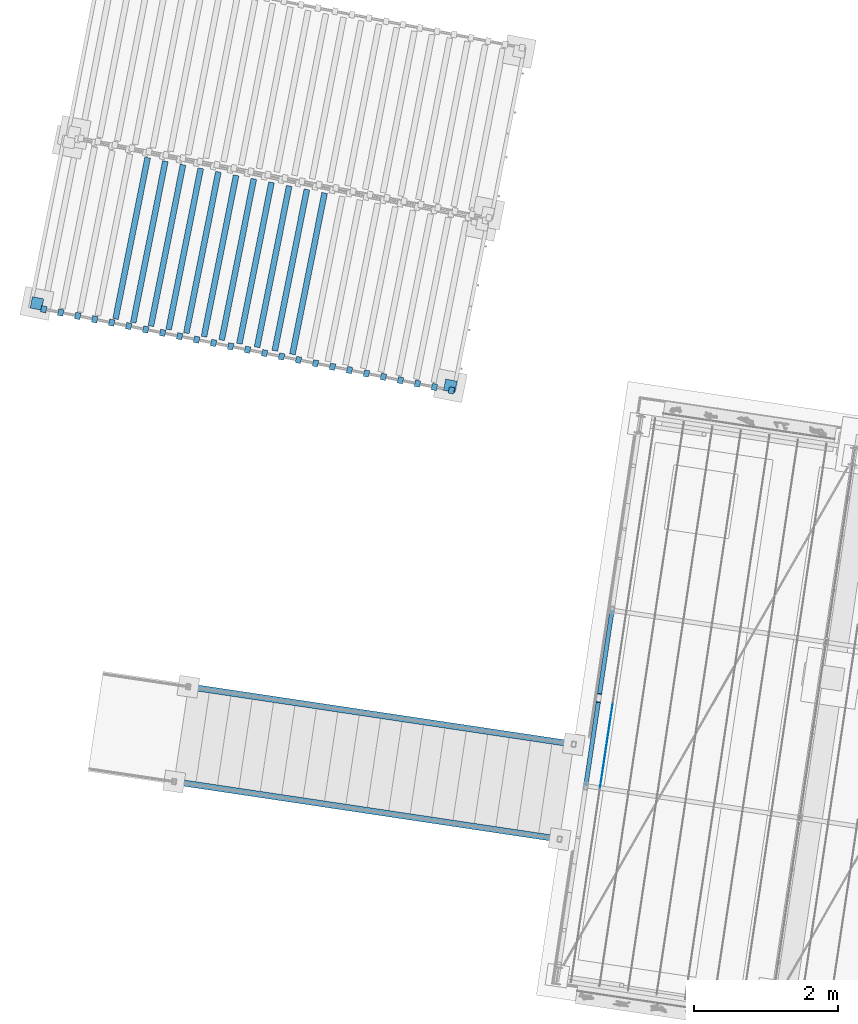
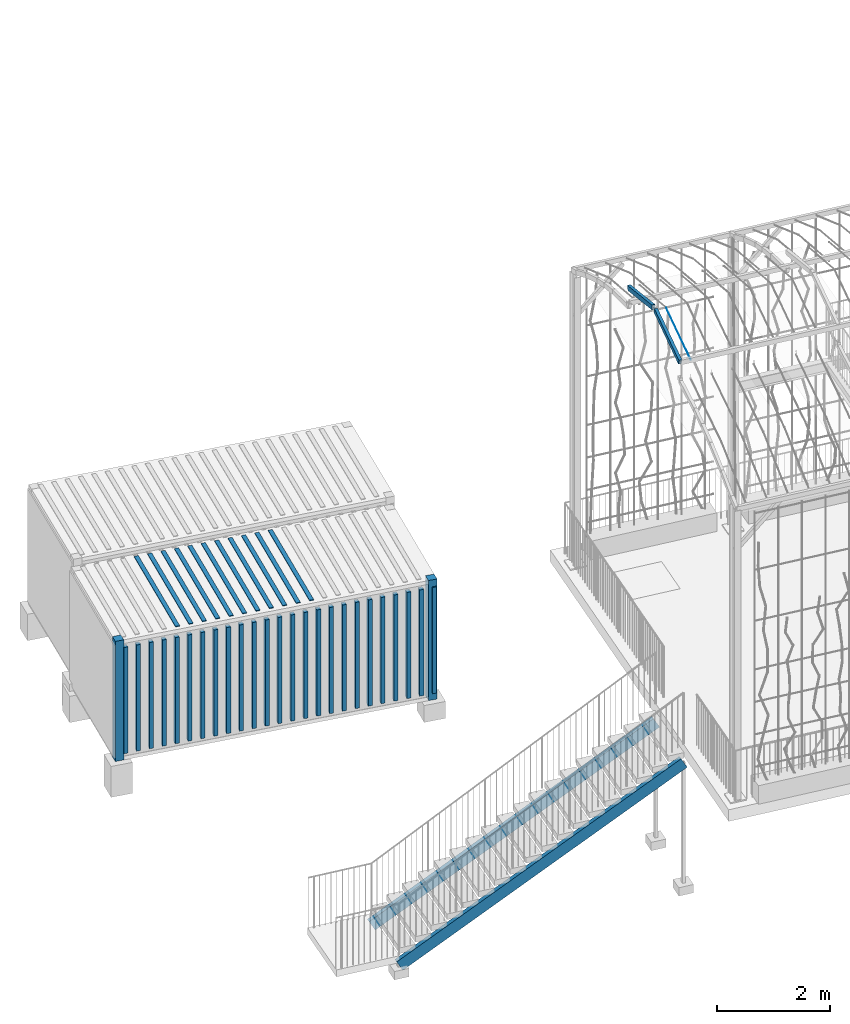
# One storey, part 27 of 143: 43 members, 3 elements without a shape of their own.
"""IFC4 building model written with IfcOpenShell, lengths in metres."""

from ifc_helpers import new_model, si_unit, direction, frame, origin_with_axes, place, context, subcontext, project, spatial, polyline, hollow_rectangle, circle, outline, extrude, material, material_profile, profile_set, profile_usage, type_object, element, aggregate, save


model = new_model("IFC4")

# Units and contexts
model_context = context("Model", 3, precision=1e-05, world=origin_with_axes(), true_north=direction((0.0, 1.0)))
body_context = subcontext(model_context, "Body", "Model", "MODEL_VIEW")
ifc_project = project(units=[si_unit("VOLUMEUNIT", "CUBIC_METRE"), si_unit("LENGTHUNIT", "METRE"), si_unit("AREAUNIT", "SQUARE_METRE")], contexts=[model_context])

# Site, building, storey
site_placement = place(None, origin_with_axes())
site = spatial("IfcSite", under=ifc_project, at=site_placement, Name="Lares · Rua das Mercês · artigo 4771")
building_placement = place(site_placement, frame((15.0, 9.7, 15.8), z_axis=(0.0, 0.0, 1.0), x_axis=(0.989015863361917, -0.147809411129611, 0.0)))
building = spatial("IfcBuilding", under=site, at=building_placement, Name="Casa Sobreposta")
storey_placement = place(building_placement, origin_with_axes())
storey = spatial("IfcBuildingStorey", under=building, at=storey_placement, Name="00 · Habitação e estacionamento", Elevation=15.8)

# Stair, members
stair_placement = place(storey_placement, origin_with_axes())
stair = element("IfcStair", 1, at=stair_placement, inside=storey, Name="Jardim · escada pela fachada poente", PredefinedType="STRAIGHT_RUN_STAIR")
ifc_material_1 = material(Name="Aço pintado / Stahl lackiert", Category="steel")
ifc_material_profile_1 = material_profile(ifc_material_1, outline(polyline([(-0.0425, -0.12), (0.0425, -0.12), (0.0425, -0.1102), (-0.0325, -0.1102), (-0.0325, 0.1102), (0.0425, 0.1102), (0.0425, 0.12), (-0.0425, 0.12), (-0.0425, -0.12)])))
ifc_profile_set_1 = profile_set([ifc_material_profile_1], Name="C240")
ifc_profile_usage_1 = profile_usage(ifc_profile_set_1)
member_type_1 = type_object("IfcMemberType", Name="C240 / steel", PredefinedType="NOTDEFINED", material=ifc_profile_set_1)
member_1_placement = place(stair_placement, frame((-6.25, 0.435, -0.426315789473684), z_axis=(-0.874591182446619, 0.0, -0.484861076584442), x_axis=(0.0, 1.0, 0.0)))
member_1 = element("IfcMember", 2, at=member_1_placement, type_object=member_type_1, material=ifc_profile_usage_1, Name="Jardim · longarina poente", context=body_context, shape_type="SweptSolid", body=[
    extrude(outline(polyline([(-0.0425, -0.12), (0.0425, -0.12), (0.0425, -0.1102), (-0.0325, -0.1102), (-0.0325, 0.1102), (0.0425, 0.1102), (0.0425, 0.12), (-0.0425, 0.12), (-0.0425, -0.12)])), origin_with_axes(), (0.0, 0.0, 1.0), 6.17431333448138),
])
ifc_profile_usage_2 = profile_usage(ifc_profile_set_1)
member_2_placement = place(stair_placement, frame((-6.25, 1.765, -0.426315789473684), z_axis=(-0.874591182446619, 0.0, -0.484861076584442), x_axis=(0.0, 1.0, 0.0)))
member_2 = element("IfcMember", 3, at=member_2_placement, type_object=member_type_1, material=ifc_profile_usage_2, Name="Jardim · longarina poente", context=body_context, shape_type="SweptSolid", body=[
    extrude(outline(polyline([(-0.0425, -0.12), (0.0425, -0.12), (0.0425, -0.1102), (-0.0325, -0.1102), (-0.0325, 0.1102), (0.0425, 0.1102), (0.0425, 0.12), (-0.0425, 0.12), (-0.0425, -0.12)])), origin_with_axes(), (0.0, 0.0, 1.0), 6.17431333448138),
])
aggregate(stair, [member_1, member_2])

# Assembly, members
assembly_1_placement = place(storey_placement, origin_with_axes())
assembly_1 = element("IfcElementAssembly", 4, at=assembly_1_placement, inside=storey, Name="Pérgola · prolongamento da estufa 6 m", ObjectType="PERGOLA_GREENHOUSE_EXTENSION", PredefinedType="USERDEFINED")
ifc_material_profile_2 = material_profile(ifc_material_1, hollow_rectangle(XDim=0.06, YDim=0.1, WallThickness=0.004))
ifc_profile_set_2 = profile_set([ifc_material_profile_2], Name="RHS100x60x4")
ifc_profile_usage_3 = profile_usage(ifc_profile_set_2)
member_type_2 = type_object("IfcMemberType", Name="RHS100x60x4 / steel", PredefinedType="NOTDEFINED", material=ifc_profile_set_2)
member_3_placement = place(assembly_1_placement, frame((-6.0, 1.22042020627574, 7.62067689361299), z_axis=(0.0, 0.960073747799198, 0.279747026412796), x_axis=(1.0, 0.0, 0.0)))
member_3 = element("IfcMember", 5, at=member_3_placement, type_object=member_type_2, material=ifc_profile_usage_3, Name="Pérgola · arco contínuo com a estufa", context=body_context, shape_type="SweptSolid", body=[
    extrude(hollow_rectangle(XDim=0.06, YDim=0.1, WallThickness=0.004), origin_with_axes(), (0.0, 0.0, 1.0), 1.23148937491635),
])
ifc_profile_usage_4 = profile_usage(ifc_profile_set_2)
member_4_placement = place(assembly_1_placement, frame((-6.0, 2.49770027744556, 7.96518238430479), z_axis=(0.0, 0.96007374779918, -0.279747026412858), x_axis=(1.0, 0.0, 0.0)))
member_4 = element("IfcMember", 6, at=member_4_placement, type_object=member_type_2, material=ifc_profile_usage_4, Name="Pérgola · arco contínuo com a estufa", context=body_context, shape_type="SweptSolid", body=[
    extrude(hollow_rectangle(XDim=0.06, YDim=0.1, WallThickness=0.004), origin_with_axes(), (0.0, 0.0, 1.0), 1.23148937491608),
])
ifc_material_2 = material(Name="Aço galvanizado / Stahl verzinkt", Category="steel")
ifc_material_profile_3 = material_profile(ifc_material_2, circle(Radius=0.002))
ifc_profile_set_3 = profile_set([ifc_material_profile_3], Name="D0.004")
ifc_profile_usage_5 = profile_usage(ifc_profile_set_3)
member_type_3 = type_object("IfcMemberType", Name="D0.004 / galvanized", PredefinedType="NOTDEFINED", material=ifc_profile_set_3)
member_5_placement = place(assembly_1_placement, frame((-5.8, 1.22042020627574, 7.62067689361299), z_axis=(0.0, 0.960073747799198, 0.279747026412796), x_axis=(1.0, 0.0, 0.0)))
member_5 = element("IfcMember", 7, at=member_5_placement, type_object=member_type_3, material=ifc_profile_usage_5, Name="Pérgola · fio para trepadeiras", context=body_context, shape_type="SweptSolid", body=[
    extrude(circle(Radius=0.002), origin_with_axes(), (0.0, 0.0, 1.0), 1.23148937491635),
])
aggregate(assembly_1, [member_3, member_4, member_5])

assembly_2_placement = place(storey_placement, frame((-14.5932944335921, 6.63122214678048, 0.0), z_axis=(0.0, 0.0, 1.0), x_axis=(0.998832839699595, -0.0483007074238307, 0.0)))
assembly_2 = element("IfcElementAssembly", 8, at=assembly_2_placement, inside=storey, Name="Contentor existente 2 · 6 m", ObjectType="EXISTING_SHIPPING_CONTAINER", PredefinedType="USERDEFINED")
ifc_material_3 = material(Name="Contentor · pintura 2", Category="steel")
member_6_placement = place(assembly_2_placement, frame((0.0, 0.0, -2.31875169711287), z_axis=(0.0, 0.0, 1.0), x_axis=(1.0, 0.0, 0.0)))
member_6 = element("IfcMember", 9, at=member_6_placement, material=ifc_material_3, Name="Contentor · canto", context=body_context, shape_type="SweptSolid", body=[
    extrude(outline(polyline([(0.16, 0.0), (0.16, 0.16), (0.0, 0.16), (0.0, 0.0), (0.16, 0.0)])), origin_with_axes(), (0.0, 0.0, 1.0), 2.59),
])
member_7_placement = place(assembly_2_placement, frame((0.0, 0.0, -2.31875169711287), z_axis=(0.0, 0.0, 1.0), x_axis=(1.0, 0.0, 0.0)))
member_7 = element("IfcMember", 10, at=member_7_placement, material=ifc_material_3, Name="Contentor · canto", context=body_context, shape_type="SweptSolid", body=[
    extrude(outline(polyline([(6.0, 0.0), (6.0, 0.16), (5.84, 0.16), (5.84, 0.0), (6.0, 0.0)])), origin_with_axes(), (0.0, 0.0, 1.0), 2.59),
])
member_8_placement = place(assembly_2_placement, frame((0.0, 0.0, -2.16875169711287), z_axis=(0.0, 0.0, 1.0), x_axis=(1.0, 0.0, 0.0)))
member_8 = element("IfcMember", 11, at=member_8_placement, material=ifc_material_3, Name="Contentor · nervura lateral", context=body_context, shape_type="SweptSolid", body=[
    extrude(outline(polyline([(0.225, -0.025), (0.225, 0.065), (0.15, 0.065), (0.15, -0.025), (0.225, -0.025)])), origin_with_axes(), (0.0, 0.0, 1.0), 2.29),
])
member_9_placement = place(assembly_2_placement, frame((0.0, 0.0, -2.16875169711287), z_axis=(0.0, 0.0, 1.0), x_axis=(1.0, 0.0, 0.0)))
member_9 = element("IfcMember", 12, at=member_9_placement, material=ifc_material_3, Name="Contentor · nervura lateral", context=body_context, shape_type="SweptSolid", body=[
    extrude(outline(polyline([(0.465, -0.025), (0.465, 0.065), (0.39, 0.065), (0.39, -0.025), (0.465, -0.025)])), origin_with_axes(), (0.0, 0.0, 1.0), 2.29),
])
member_10_placement = place(assembly_2_placement, frame((0.0, 0.0, -2.16875169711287), z_axis=(0.0, 0.0, 1.0), x_axis=(1.0, 0.0, 0.0)))
member_10 = element("IfcMember", 13, at=member_10_placement, material=ifc_material_3, Name="Contentor · nervura lateral", context=body_context, shape_type="SweptSolid", body=[
    extrude(outline(polyline([(0.705, -0.025), (0.705, 0.065), (0.63, 0.065), (0.63, -0.025), (0.705, -0.025)])), origin_with_axes(), (0.0, 0.0, 1.0), 2.29),
])
member_11_placement = place(assembly_2_placement, frame((0.0, 0.0, -2.16875169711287), z_axis=(0.0, 0.0, 1.0), x_axis=(1.0, 0.0, 0.0)))
member_11 = element("IfcMember", 14, at=member_11_placement, material=ifc_material_3, Name="Contentor · nervura lateral", context=body_context, shape_type="SweptSolid", body=[
    extrude(outline(polyline([(0.945, -0.025), (0.945, 0.065), (0.87, 0.065), (0.87, -0.025), (0.945, -0.025)])), origin_with_axes(), (0.0, 0.0, 1.0), 2.29),
])
member_12_placement = place(assembly_2_placement, frame((0.0, 0.0, -2.16875169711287), z_axis=(0.0, 0.0, 1.0), x_axis=(1.0, 0.0, 0.0)))
member_12 = element("IfcMember", 15, at=member_12_placement, material=ifc_material_3, Name="Contentor · nervura lateral", context=body_context, shape_type="SweptSolid", body=[
    extrude(outline(polyline([(1.185, -0.025), (1.185, 0.065), (1.11, 0.065), (1.11, -0.025), (1.185, -0.025)])), origin_with_axes(), (0.0, 0.0, 1.0), 2.29),
])
member_13_placement = place(assembly_2_placement, frame((0.0, 0.0, -2.16875169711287), z_axis=(0.0, 0.0, 1.0), x_axis=(1.0, 0.0, 0.0)))
member_13 = element("IfcMember", 16, at=member_13_placement, material=ifc_material_3, Name="Contentor · nervura lateral", context=body_context, shape_type="SweptSolid", body=[
    extrude(outline(polyline([(1.425, -0.025), (1.425, 0.065), (1.35, 0.065), (1.35, -0.025), (1.425, -0.025)])), origin_with_axes(), (0.0, 0.0, 1.0), 2.29),
])
member_14_placement = place(assembly_2_placement, frame((0.0, 0.0, -2.16875169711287), z_axis=(0.0, 0.0, 1.0), x_axis=(1.0, 0.0, 0.0)))
member_14 = element("IfcMember", 17, at=member_14_placement, material=ifc_material_3, Name="Contentor · nervura lateral", context=body_context, shape_type="SweptSolid", body=[
    extrude(outline(polyline([(1.665, -0.025), (1.665, 0.065), (1.59, 0.065), (1.59, -0.025), (1.665, -0.025)])), origin_with_axes(), (0.0, 0.0, 1.0), 2.29),
])
member_15_placement = place(assembly_2_placement, frame((0.0, 0.0, -2.16875169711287), z_axis=(0.0, 0.0, 1.0), x_axis=(1.0, 0.0, 0.0)))
member_15 = element("IfcMember", 18, at=member_15_placement, material=ifc_material_3, Name="Contentor · nervura lateral", context=body_context, shape_type="SweptSolid", body=[
    extrude(outline(polyline([(1.905, -0.025), (1.905, 0.065), (1.83, 0.065), (1.83, -0.025), (1.905, -0.025)])), origin_with_axes(), (0.0, 0.0, 1.0), 2.29),
])
member_16_placement = place(assembly_2_placement, frame((0.0, 0.0, -2.16875169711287), z_axis=(0.0, 0.0, 1.0), x_axis=(1.0, 0.0, 0.0)))
member_16 = element("IfcMember", 19, at=member_16_placement, material=ifc_material_3, Name="Contentor · nervura lateral", context=body_context, shape_type="SweptSolid", body=[
    extrude(outline(polyline([(2.145, -0.025), (2.145, 0.065), (2.07, 0.065), (2.07, -0.025), (2.145, -0.025)])), origin_with_axes(), (0.0, 0.0, 1.0), 2.29),
])
member_17_placement = place(assembly_2_placement, frame((0.0, 0.0, -2.16875169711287), z_axis=(0.0, 0.0, 1.0), x_axis=(1.0, 0.0, 0.0)))
member_17 = element("IfcMember", 20, at=member_17_placement, material=ifc_material_3, Name="Contentor · nervura lateral", context=body_context, shape_type="SweptSolid", body=[
    extrude(outline(polyline([(2.385, -0.025), (2.385, 0.065), (2.31, 0.065), (2.31, -0.025), (2.385, -0.025)])), origin_with_axes(), (0.0, 0.0, 1.0), 2.29),
])
member_18_placement = place(assembly_2_placement, frame((0.0, 0.0, -2.16875169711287), z_axis=(0.0, 0.0, 1.0), x_axis=(1.0, 0.0, 0.0)))
member_18 = element("IfcMember", 21, at=member_18_placement, material=ifc_material_3, Name="Contentor · nervura lateral", context=body_context, shape_type="SweptSolid", body=[
    extrude(outline(polyline([(2.625, -0.025), (2.625, 0.065), (2.55, 0.065), (2.55, -0.025), (2.625, -0.025)])), origin_with_axes(), (0.0, 0.0, 1.0), 2.29),
])
member_19_placement = place(assembly_2_placement, frame((0.0, 0.0, -2.16875169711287), z_axis=(0.0, 0.0, 1.0), x_axis=(1.0, 0.0, 0.0)))
member_19 = element("IfcMember", 22, at=member_19_placement, material=ifc_material_3, Name="Contentor · nervura lateral", context=body_context, shape_type="SweptSolid", body=[
    extrude(outline(polyline([(2.865, -0.025), (2.865, 0.065), (2.79, 0.065), (2.79, -0.025), (2.865, -0.025)])), origin_with_axes(), (0.0, 0.0, 1.0), 2.29),
])
member_20_placement = place(assembly_2_placement, frame((0.0, 0.0, -2.16875169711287), z_axis=(0.0, 0.0, 1.0), x_axis=(1.0, 0.0, 0.0)))
member_20 = element("IfcMember", 23, at=member_20_placement, material=ifc_material_3, Name="Contentor · nervura lateral", context=body_context, shape_type="SweptSolid", body=[
    extrude(outline(polyline([(3.105, -0.025), (3.105, 0.065), (3.03, 0.065), (3.03, -0.025), (3.105, -0.025)])), origin_with_axes(), (0.0, 0.0, 1.0), 2.29),
])
member_21_placement = place(assembly_2_placement, frame((0.0, 0.0, -2.16875169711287), z_axis=(0.0, 0.0, 1.0), x_axis=(1.0, 0.0, 0.0)))
member_21 = element("IfcMember", 24, at=member_21_placement, material=ifc_material_3, Name="Contentor · nervura lateral", context=body_context, shape_type="SweptSolid", body=[
    extrude(outline(polyline([(3.345, -0.025), (3.345, 0.065), (3.27, 0.065), (3.27, -0.025), (3.345, -0.025)])), origin_with_axes(), (0.0, 0.0, 1.0), 2.29),
])
member_22_placement = place(assembly_2_placement, frame((0.0, 0.0, -2.16875169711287), z_axis=(0.0, 0.0, 1.0), x_axis=(1.0, 0.0, 0.0)))
member_22 = element("IfcMember", 25, at=member_22_placement, material=ifc_material_3, Name="Contentor · nervura lateral", context=body_context, shape_type="SweptSolid", body=[
    extrude(outline(polyline([(3.585, -0.025), (3.585, 0.065), (3.51, 0.065), (3.51, -0.025), (3.585, -0.025)])), origin_with_axes(), (0.0, 0.0, 1.0), 2.29),
])
member_23_placement = place(assembly_2_placement, frame((0.0, 0.0, -2.16875169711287), z_axis=(0.0, 0.0, 1.0), x_axis=(1.0, 0.0, 0.0)))
member_23 = element("IfcMember", 26, at=member_23_placement, material=ifc_material_3, Name="Contentor · nervura lateral", context=body_context, shape_type="SweptSolid", body=[
    extrude(outline(polyline([(3.825, -0.025), (3.825, 0.065), (3.75, 0.065), (3.75, -0.025), (3.825, -0.025)])), origin_with_axes(), (0.0, 0.0, 1.0), 2.29),
])
member_24_placement = place(assembly_2_placement, frame((0.0, 0.0, -2.16875169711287), z_axis=(0.0, 0.0, 1.0), x_axis=(1.0, 0.0, 0.0)))
member_24 = element("IfcMember", 27, at=member_24_placement, material=ifc_material_3, Name="Contentor · nervura lateral", context=body_context, shape_type="SweptSolid", body=[
    extrude(outline(polyline([(4.065, -0.025), (4.065, 0.065), (3.99, 0.065), (3.99, -0.025), (4.065, -0.025)])), origin_with_axes(), (0.0, 0.0, 1.0), 2.29),
])
member_25_placement = place(assembly_2_placement, frame((0.0, 0.0, -2.16875169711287), z_axis=(0.0, 0.0, 1.0), x_axis=(1.0, 0.0, 0.0)))
member_25 = element("IfcMember", 28, at=member_25_placement, material=ifc_material_3, Name="Contentor · nervura lateral", context=body_context, shape_type="SweptSolid", body=[
    extrude(outline(polyline([(4.305, -0.025), (4.305, 0.065), (4.23, 0.065), (4.23, -0.025), (4.305, -0.025)])), origin_with_axes(), (0.0, 0.0, 1.0), 2.29),
])
member_26_placement = place(assembly_2_placement, frame((0.0, 0.0, -2.16875169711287), z_axis=(0.0, 0.0, 1.0), x_axis=(1.0, 0.0, 0.0)))
member_26 = element("IfcMember", 29, at=member_26_placement, material=ifc_material_3, Name="Contentor · nervura lateral", context=body_context, shape_type="SweptSolid", body=[
    extrude(outline(polyline([(4.545, -0.025), (4.545, 0.065), (4.47, 0.065), (4.47, -0.025), (4.545, -0.025)])), origin_with_axes(), (0.0, 0.0, 1.0), 2.29),
])
member_27_placement = place(assembly_2_placement, frame((0.0, 0.0, -2.16875169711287), z_axis=(0.0, 0.0, 1.0), x_axis=(1.0, 0.0, 0.0)))
member_27 = element("IfcMember", 30, at=member_27_placement, material=ifc_material_3, Name="Contentor · nervura lateral", context=body_context, shape_type="SweptSolid", body=[
    extrude(outline(polyline([(4.785, -0.025), (4.785, 0.065), (4.71, 0.065), (4.71, -0.025), (4.785, -0.025)])), origin_with_axes(), (0.0, 0.0, 1.0), 2.29),
])
member_28_placement = place(assembly_2_placement, frame((0.0, 0.0, -2.16875169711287), z_axis=(0.0, 0.0, 1.0), x_axis=(1.0, 0.0, 0.0)))
member_28 = element("IfcMember", 31, at=member_28_placement, material=ifc_material_3, Name="Contentor · nervura lateral", context=body_context, shape_type="SweptSolid", body=[
    extrude(outline(polyline([(5.025, -0.025), (5.025, 0.065), (4.95, 0.065), (4.95, -0.025), (5.025, -0.025)])), origin_with_axes(), (0.0, 0.0, 1.0), 2.29),
])
member_29_placement = place(assembly_2_placement, frame((0.0, 0.0, -2.16875169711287), z_axis=(0.0, 0.0, 1.0), x_axis=(1.0, 0.0, 0.0)))
member_29 = element("IfcMember", 32, at=member_29_placement, material=ifc_material_3, Name="Contentor · nervura lateral", context=body_context, shape_type="SweptSolid", body=[
    extrude(outline(polyline([(5.265, -0.025), (5.265, 0.065), (5.19, 0.065), (5.19, -0.025), (5.265, -0.025)])), origin_with_axes(), (0.0, 0.0, 1.0), 2.29),
])
member_30_placement = place(assembly_2_placement, frame((0.0, 0.0, -2.16875169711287), z_axis=(0.0, 0.0, 1.0), x_axis=(1.0, 0.0, 0.0)))
member_30 = element("IfcMember", 33, at=member_30_placement, material=ifc_material_3, Name="Contentor · nervura lateral", context=body_context, shape_type="SweptSolid", body=[
    extrude(outline(polyline([(5.505, -0.025), (5.505, 0.065), (5.43, 0.065), (5.43, -0.025), (5.505, -0.025)])), origin_with_axes(), (0.0, 0.0, 1.0), 2.29),
])
member_31_placement = place(assembly_2_placement, frame((0.0, 0.0, -2.16875169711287), z_axis=(0.0, 0.0, 1.0), x_axis=(1.0, 0.0, 0.0)))
member_31 = element("IfcMember", 34, at=member_31_placement, material=ifc_material_3, Name="Contentor · nervura lateral", context=body_context, shape_type="SweptSolid", body=[
    extrude(outline(polyline([(5.745, -0.025), (5.745, 0.065), (5.67, 0.065), (5.67, -0.025), (5.745, -0.025)])), origin_with_axes(), (0.0, 0.0, 1.0), 2.29),
])
member_32_placement = place(assembly_2_placement, frame((0.0, 0.0, -2.16875169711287), z_axis=(0.0, 0.0, 1.0), x_axis=(1.0, 0.0, 0.0)))
member_32 = element("IfcMember", 35, at=member_32_placement, material=ifc_material_3, Name="Contentor · nervura lateral", context=body_context, shape_type="SweptSolid", body=[
    extrude(outline(polyline([(5.985, -0.025), (5.985, 0.065), (5.91, 0.065), (5.91, -0.025), (5.985, -0.025)])), origin_with_axes(), (0.0, 0.0, 1.0), 2.29),
])
member_33_placement = place(assembly_2_placement, frame((0.0, 0.0, 0.266248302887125), z_axis=(0.0, 0.0, 1.0), x_axis=(1.0, 0.0, 0.0)))
member_33 = element("IfcMember", 36, at=member_33_placement, material=ifc_material_3, Name="Contentor · nervura cobertura", context=body_context, shape_type="SweptSolid", body=[
    extrude(outline(polyline([(1.23, 0.08), (1.23, 2.36), (1.15, 2.36), (1.15, 0.08), (1.23, 0.08)])), origin_with_axes(), (0.0, 0.0, 1.0), 0.018),
])
member_34_placement = place(assembly_2_placement, frame((0.0, 0.0, 0.266248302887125), z_axis=(0.0, 0.0, 1.0), x_axis=(1.0, 0.0, 0.0)))
member_34 = element("IfcMember", 37, at=member_34_placement, material=ifc_material_3, Name="Contentor · nervura cobertura", context=body_context, shape_type="SweptSolid", body=[
    extrude(outline(polyline([(1.48, 0.08), (1.48, 2.36), (1.4, 2.36), (1.4, 0.08), (1.48, 0.08)])), origin_with_axes(), (0.0, 0.0, 1.0), 0.018),
])
member_35_placement = place(assembly_2_placement, frame((0.0, 0.0, 0.266248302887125), z_axis=(0.0, 0.0, 1.0), x_axis=(1.0, 0.0, 0.0)))
member_35 = element("IfcMember", 38, at=member_35_placement, material=ifc_material_3, Name="Contentor · nervura cobertura", context=body_context, shape_type="SweptSolid", body=[
    extrude(outline(polyline([(1.73, 0.08), (1.73, 2.36), (1.65, 2.36), (1.65, 0.08), (1.73, 0.08)])), origin_with_axes(), (0.0, 0.0, 1.0), 0.018),
])
member_36_placement = place(assembly_2_placement, frame((0.0, 0.0, 0.266248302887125), z_axis=(0.0, 0.0, 1.0), x_axis=(1.0, 0.0, 0.0)))
member_36 = element("IfcMember", 39, at=member_36_placement, material=ifc_material_3, Name="Contentor · nervura cobertura", context=body_context, shape_type="SweptSolid", body=[
    extrude(outline(polyline([(1.98, 0.08), (1.98, 2.36), (1.9, 2.36), (1.9, 0.08), (1.98, 0.08)])), origin_with_axes(), (0.0, 0.0, 1.0), 0.018),
])
member_37_placement = place(assembly_2_placement, frame((0.0, 0.0, 0.266248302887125), z_axis=(0.0, 0.0, 1.0), x_axis=(1.0, 0.0, 0.0)))
member_37 = element("IfcMember", 40, at=member_37_placement, material=ifc_material_3, Name="Contentor · nervura cobertura", context=body_context, shape_type="SweptSolid", body=[
    extrude(outline(polyline([(2.23, 0.08), (2.23, 2.36), (2.15, 2.36), (2.15, 0.08), (2.23, 0.08)])), origin_with_axes(), (0.0, 0.0, 1.0), 0.018),
])
member_38_placement = place(assembly_2_placement, frame((0.0, 0.0, 0.266248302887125), z_axis=(0.0, 0.0, 1.0), x_axis=(1.0, 0.0, 0.0)))
member_38 = element("IfcMember", 41, at=member_38_placement, material=ifc_material_3, Name="Contentor · nervura cobertura", context=body_context, shape_type="SweptSolid", body=[
    extrude(outline(polyline([(2.48, 0.08), (2.48, 2.36), (2.4, 2.36), (2.4, 0.08), (2.48, 0.08)])), origin_with_axes(), (0.0, 0.0, 1.0), 0.018),
])
member_39_placement = place(assembly_2_placement, frame((0.0, 0.0, 0.266248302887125), z_axis=(0.0, 0.0, 1.0), x_axis=(1.0, 0.0, 0.0)))
member_39 = element("IfcMember", 42, at=member_39_placement, material=ifc_material_3, Name="Contentor · nervura cobertura", context=body_context, shape_type="SweptSolid", body=[
    extrude(outline(polyline([(2.73, 0.08), (2.73, 2.36), (2.65, 2.36), (2.65, 0.08), (2.73, 0.08)])), origin_with_axes(), (0.0, 0.0, 1.0), 0.018),
])
member_40_placement = place(assembly_2_placement, frame((0.0, 0.0, 0.266248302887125), z_axis=(0.0, 0.0, 1.0), x_axis=(1.0, 0.0, 0.0)))
member_40 = element("IfcMember", 43, at=member_40_placement, material=ifc_material_3, Name="Contentor · nervura cobertura", context=body_context, shape_type="SweptSolid", body=[
    extrude(outline(polyline([(2.98, 0.08), (2.98, 2.36), (2.9, 2.36), (2.9, 0.08), (2.98, 0.08)])), origin_with_axes(), (0.0, 0.0, 1.0), 0.018),
])
member_41_placement = place(assembly_2_placement, frame((0.0, 0.0, 0.266248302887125), z_axis=(0.0, 0.0, 1.0), x_axis=(1.0, 0.0, 0.0)))
member_41 = element("IfcMember", 44, at=member_41_placement, material=ifc_material_3, Name="Contentor · nervura cobertura", context=body_context, shape_type="SweptSolid", body=[
    extrude(outline(polyline([(3.23, 0.08), (3.23, 2.36), (3.15, 2.36), (3.15, 0.08), (3.23, 0.08)])), origin_with_axes(), (0.0, 0.0, 1.0), 0.018),
])
member_42_placement = place(assembly_2_placement, frame((0.0, 0.0, 0.266248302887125), z_axis=(0.0, 0.0, 1.0), x_axis=(1.0, 0.0, 0.0)))
member_42 = element("IfcMember", 45, at=member_42_placement, material=ifc_material_3, Name="Contentor · nervura cobertura", context=body_context, shape_type="SweptSolid", body=[
    extrude(outline(polyline([(3.48, 0.08), (3.48, 2.36), (3.4, 2.36), (3.4, 0.08), (3.48, 0.08)])), origin_with_axes(), (0.0, 0.0, 1.0), 0.018),
])
member_43_placement = place(assembly_2_placement, frame((0.0, 0.0, 0.266248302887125), z_axis=(0.0, 0.0, 1.0), x_axis=(1.0, 0.0, 0.0)))
member_43 = element("IfcMember", 46, at=member_43_placement, material=ifc_material_3, Name="Contentor · nervura cobertura", context=body_context, shape_type="SweptSolid", body=[
    extrude(outline(polyline([(3.73, 0.08), (3.73, 2.36), (3.65, 2.36), (3.65, 0.08), (3.73, 0.08)])), origin_with_axes(), (0.0, 0.0, 1.0), 0.018),
])
aggregate(assembly_2, [member_6, member_7, member_8, member_9, member_10, member_11, member_12, member_13, member_14, member_15, member_16, member_17, member_18, member_19, member_20, member_21, member_22, member_23, member_24, member_25, member_26, member_27, member_28, member_29, member_30, member_31, member_32, member_33, member_34, member_35, member_36, member_37, member_38, member_39, member_40, member_41, member_42, member_43])

save(model, "model.ifc")
